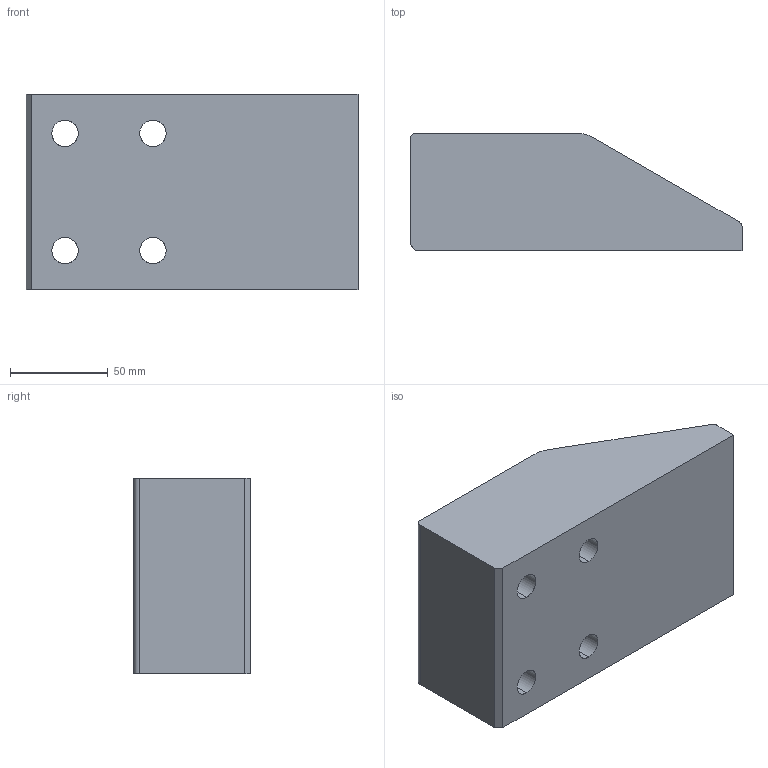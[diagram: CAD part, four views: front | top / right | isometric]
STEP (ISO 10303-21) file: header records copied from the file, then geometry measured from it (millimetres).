
FILE_DESCRIPTION(('CATIA V5 STEP Exchange'),'2;1');
FILE_NAME('C:\Users\Utente\Desktop\3D files A934\A934-10017060.stp','2020-04-17T08:27:42+00:00',('none'),('none'),'CATIA Version 5 Release 20 GA (IN-10)','CATIA V5 STEP AP203','none');
FILE_SCHEMA(('CONFIG_CONTROL_DESIGN'));
Length unit declared in the file: millimetre
Products named in the file (1): Noname
Bounding box: 170 x 60 x 100 mm (x, y, z)
Surface area: 71353.7 mm2 (no closed solid volume)
Topology: 0 solids, 27 shells, 39 faces, 158 edges, 134 vertices
Faces by surface type: cylinder 19, extrusion 12, revolution 8
Entity records: 2132 total; most frequent: CARTESIAN_POINT 870, ORIENTED_EDGE 182, DIRECTION 174, EDGE_CURVE 158, VERTEX_POINT 134, AXIS2_PLACEMENT_3D 82, VECTOR 66, B_SPLINE_CURVE_WITH_KNOTS 62
